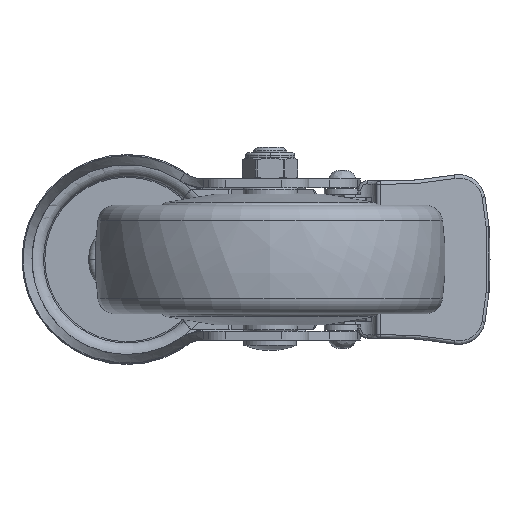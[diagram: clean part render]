
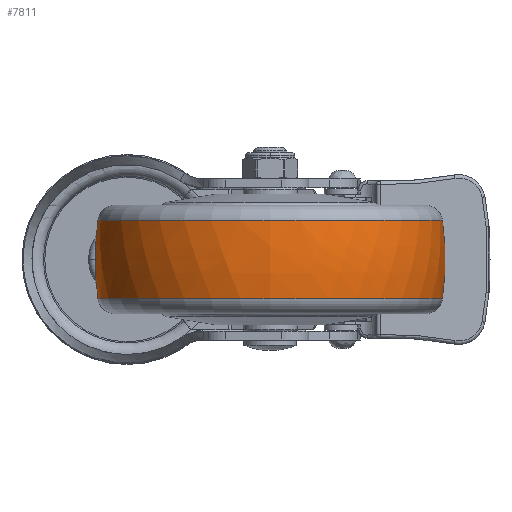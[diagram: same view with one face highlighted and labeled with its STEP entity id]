
A CAD part, front view. The second image highlights one B-rep face of the part: STEP entity #7811.
In plain terms, the highlighted free-form (B-spline) face has degree [3, 3] with [7, 4] control points.
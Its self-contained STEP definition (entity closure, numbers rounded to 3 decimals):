
#7122=CARTESIAN_POINT('',(-11.2,0.,0.));
#7123=DIRECTION('',(-1.,0.,0.));
#7124=DIRECTION('',(0.,1.,0.));
#7125=AXIS2_PLACEMENT_3D('',#7122,#7123,#7124);
#7137=CARTESIAN_POINT('',(0.,-30.,0.));
#7138=DIRECTION('',(0.,0.,1.));
#7139=DIRECTION('',(0.14,0.99,0.));
#7140=AXIS2_PLACEMENT_3D('',#7137,#7138,#7139);
#7142=CARTESIAN_POINT('',(0.,30.,0.));
#7143=DIRECTION('',(0.,0.,-1.));
#7144=DIRECTION('',(0.14,-0.99,0.));
#7145=AXIS2_PLACEMENT_3D('',#7142,#7143,#7144);
#7147=CARTESIAN_POINT('',(11.2,0.,0.));
#7148=DIRECTION('',(-1.,0.,0.));
#7149=DIRECTION('',(0.,1.,0.));
#7150=AXIS2_PLACEMENT_3D('',#7147,#7148,#7149);
#7385=CARTESIAN_POINT('',(11.2,49.212,0.));
#7387=VERTEX_POINT('',#7385);
#7388=CARTESIAN_POINT('',(-11.2,49.212,0.));
#7389=VERTEX_POINT('',#7388);
#7433=CARTESIAN_POINT('',(11.2,-49.212,
0.));
#7435=VERTEX_POINT('',#7433);
#7436=CARTESIAN_POINT('',(-11.2,-49.212,
0.));
#7437=VERTEX_POINT('',#7436);
#7775=CARTESIAN_POINT('',(-11.645,-49.051,
3.086));
#7776=CARTESIAN_POINT('',(-3.909,-50.187,
3.157));
#7777=CARTESIAN_POINT('',(3.909,-50.187,3.157));
#7778=CARTESIAN_POINT('',(11.645,-49.051,3.086));
#7779=CARTESIAN_POINT('',(-11.645,-50.95,
-27.1));
#7780=CARTESIAN_POINT('',(-3.909,-52.13,
-27.727));
#7781=CARTESIAN_POINT('',(3.909,-52.13,
-27.727));
#7782=CARTESIAN_POINT('',(11.645,-50.95,
-27.1));
#7783=CARTESIAN_POINT('',(-11.645,-30.246,
-49.148));
#7784=CARTESIAN_POINT('',(-3.909,-30.946,
-50.286));
#7785=CARTESIAN_POINT('',(3.909,-30.946,
-50.286));
#7786=CARTESIAN_POINT('',(11.645,-30.246,
-49.148));
#7787=CARTESIAN_POINT('',(-11.645,0.,
-49.148));
#7788=CARTESIAN_POINT('',(-3.909,0.,
-50.286));
#7789=CARTESIAN_POINT('',(3.909,0.,-50.286));
#7790=CARTESIAN_POINT('',(11.645,0.,
-49.148));
#7791=CARTESIAN_POINT('',(-11.645,30.246,
-49.148));
#7792=CARTESIAN_POINT('',(-3.909,30.946,
-50.286));
#7793=CARTESIAN_POINT('',(3.909,30.946,-50.286));
#7794=CARTESIAN_POINT('',(11.645,30.246,-49.148));
#7795=CARTESIAN_POINT('',(-11.645,50.95,
-27.1));
#7796=CARTESIAN_POINT('',(-3.909,52.13,
-27.727));
#7797=CARTESIAN_POINT('',(3.909,52.13,-27.727));
#7798=CARTESIAN_POINT('',(11.645,50.95,-27.1));
#7799=CARTESIAN_POINT('',(-11.645,49.051,3.086));
#7800=CARTESIAN_POINT('',(-3.909,50.187,3.157));
#7801=CARTESIAN_POINT('',(3.909,50.187,3.157));
#7802=CARTESIAN_POINT('',(11.645,49.051,3.086));
#7803=(BOUNDED_SURFACE()B_SPLINE_SURFACE(3,3,((#7775,#7776,#7777,#7778),(#7779,
#7780,#7781,#7782),(#7783,#7784,#7785,#7786),(#7787,#7788,#7789,#7790),(#7791,
#7792,#7793,#7794),(#7795,#7796,#7797,#7798),(#7799,#7800,#7801,#7802)),
.UNSPECIFIED.,.F.,.F.,.F.)B_SPLINE_SURFACE_WITH_KNOTS((4,3,4),(4,4),(0.,1.,
2.),(0.,1.),.UNSPECIFIED.)GEOMETRIC_REPRESENTATION_ITEM()RATIONAL_B_SPLINE_SURFACE(((1.194,1.185,1.185,1.194),(
0.943,0.936,0.936,0.943),(
0.943,0.936,0.936,0.943),(
1.194,1.185,1.185,1.194),(
0.943,0.936,0.936,0.943),(
0.943,0.936,0.936,0.943),(
1.194,1.185,1.185,1.194)))REPRESENTATION_ITEM('')SURFACE());
#7804=ORIENTED_EDGE('',*,*,#7765,.T.);
#7805=ORIENTED_EDGE('',*,*,#7718,.T.);
#7806=ORIENTED_EDGE('',*,*,#7769,.F.);
#7808=ORIENTED_EDGE('',*,*,#7807,.F.);
#7809=EDGE_LOOP('',(#7804,#7805,#7806,#7808));
#7810=FACE_OUTER_BOUND('',#7809,.F.);
#7126=CIRCLE('',#7125,49.212);
#7141=CIRCLE('',#7140,80.);
#7146=CIRCLE('',#7145,80.);
#7151=CIRCLE('',#7150,49.212);
#7718=EDGE_CURVE('',#7389,#7437,#7126,.T.);
#7765=EDGE_CURVE('',#7387,#7389,#7141,.T.);
#7769=EDGE_CURVE('',#7435,#7437,#7146,.T.);
#7807=EDGE_CURVE('',#7387,#7435,#7151,.T.);
#7811=ADVANCED_FACE('',(#7810),#7803,.T.);
